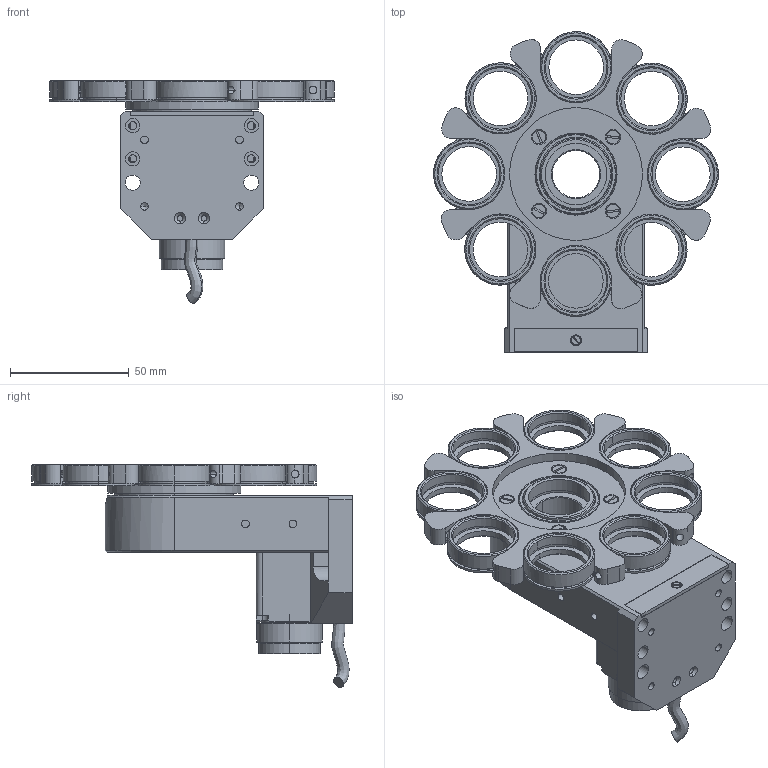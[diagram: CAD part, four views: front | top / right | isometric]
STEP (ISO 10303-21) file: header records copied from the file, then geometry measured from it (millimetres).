
FILE_DESCRIPTION (( 'STEP AP203' ), '1' );
FILE_NAME ('8MRU-1WA.STEP', '2012-03-23T13:12:14', ( 'ramunas' ), ( '' ), 'SwSTEP 2.0', 'SolidWorks 2003240', '' );
FILE_SCHEMA (( 'CONFIG_CONTROL_DESIGN' ));
Length unit declared in the file: millimetre
Products named in the file (1): 8MRU-1WA
Bounding box: 120 x 135 x 93.91 mm (x, y, z)
Volume: 226032.3 mm3; surface area: 65588.6 mm2
Topology: 1 solids, 19 shells, 996 faces, 2461 edges, 1558 vertices
Faces by surface type: cylinder 429, plane 372, cone 157, bspline 38
Entity records: 31465 total; most frequent: CARTESIAN_POINT 7285, DIRECTION 5288, ORIENTED_EDGE 4870, EDGE_CURVE 2435, AXIS2_PLACEMENT_3D 2068, VERTEX_POINT 1558, EDGE_LOOP 1155, VECTOR 1152
